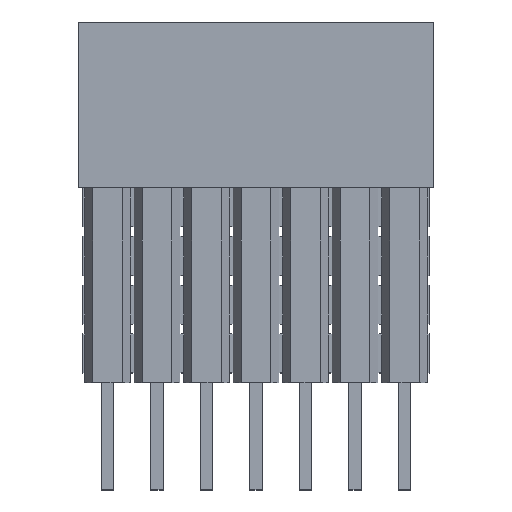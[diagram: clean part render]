
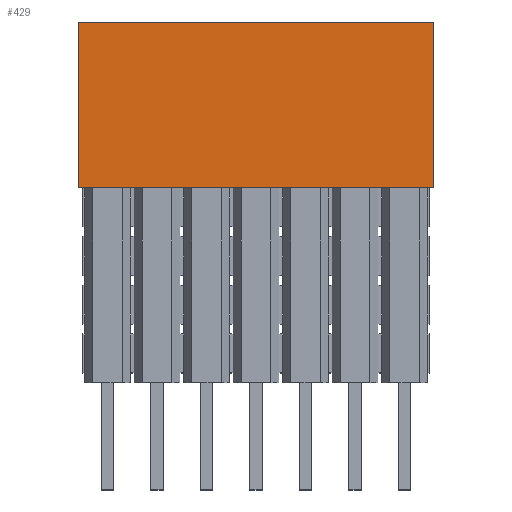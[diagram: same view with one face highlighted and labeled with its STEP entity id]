
A CAD part, top view. The second image highlights one B-rep face of the part: STEP entity #429.
In plain terms, the highlighted planar face has unit normal (0, 0, 1).
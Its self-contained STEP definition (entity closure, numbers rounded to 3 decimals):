
#429=ADVANCED_FACE('',(#1245),#841,.T.);
#841=PLANE('',#9126);
#1245=FACE_OUTER_BOUND('',#1711,.T.);
#1711=EDGE_LOOP('',(#3727,#3728,#3729,#3730));
#3727=ORIENTED_EDGE('',*,*,#6026,.F.);
#3728=ORIENTED_EDGE('',*,*,#6027,.T.);
#3729=ORIENTED_EDGE('',*,*,#6023,.T.);
#3730=ORIENTED_EDGE('',*,*,#6028,.T.);
#4895=VERTEX_POINT('',#13129);
#4896=VERTEX_POINT('',#13130);
#4897=VERTEX_POINT('',#13135);
#4898=VERTEX_POINT('',#13136);
#6023=EDGE_CURVE('',#4895,#4896,#7271,.T.);
#6026=EDGE_CURVE('',#4897,#4898,#7274,.T.);
#6027=EDGE_CURVE('',#4897,#4895,#7275,.T.);
#6028=EDGE_CURVE('',#4896,#4898,#7276,.T.);
#7271=LINE('',#13128,#8519);
#7274=LINE('',#13134,#8522);
#7275=LINE('',#13137,#8523);
#7276=LINE('',#13138,#8524);
#8519=VECTOR('',#10792,1.);
#8522=VECTOR('',#10797,1.);
#8523=VECTOR('',#10798,1.);
#8524=VECTOR('',#10799,1.);
#9126=AXIS2_PLACEMENT_3D('',#13139,#10800,#10801);
#10792=DIRECTION('',(1.,0.,0.));
#10797=DIRECTION('',(1.,0.,0.));
#10798=DIRECTION('',(0.,-1.,0.));
#10799=DIRECTION('',(0.,1.,0.));
#10800=DIRECTION('',(0.,0.,1.));
#10801=DIRECTION('',(-1.,0.,0.));
#13128=CARTESIAN_POINT('',(-38.1,0.,0.02));
#13129=CARTESIAN_POINT('',(-22.86,0.,0.02));
#13130=CARTESIAN_POINT('',(-4.68,0.,0.02));
#13134=CARTESIAN_POINT('',(-38.1,8.5,0.02));
#13135=CARTESIAN_POINT('',(-22.86,8.5,0.02));
#13136=CARTESIAN_POINT('',(-4.68,8.5,0.02));
#13137=CARTESIAN_POINT('',(-22.86,0.,0.02));
#13138=CARTESIAN_POINT('',(-4.68,0.,0.02));
#13139=CARTESIAN_POINT('',(-38.1,0.,0.02));
